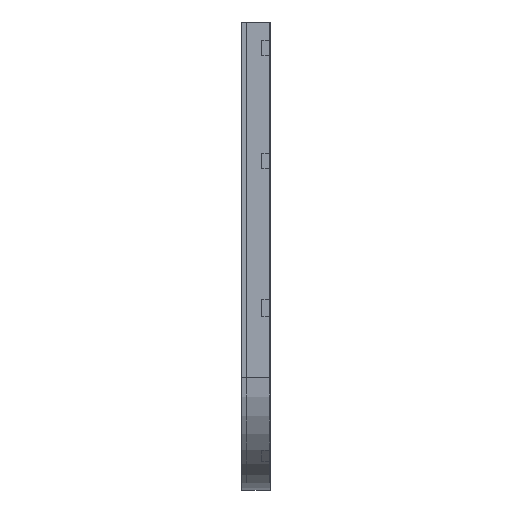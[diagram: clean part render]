
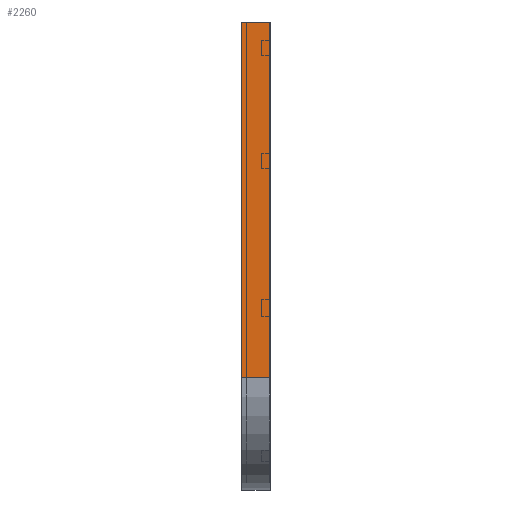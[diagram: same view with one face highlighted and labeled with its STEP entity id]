
A CAD part, left-side view. The second image highlights one B-rep face of the part: STEP entity #2260.
In plain terms, the highlighted planar face has unit normal (-1, 0, 0).
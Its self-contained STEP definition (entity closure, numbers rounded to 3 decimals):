
#28 = EDGE_CURVE ( 'NONE', #1199, #1279, #1476, .T. ) ;
#56 = CARTESIAN_POINT ( 'NONE',  ( 0., 75., 0. ) ) ;
#141 = CARTESIAN_POINT ( 'NONE',  ( 0., 75., -950. ) ) ;
#176 = EDGE_CURVE ( 'NONE', #1199, #511, #2071, .T. ) ;
#281 = CARTESIAN_POINT ( 'NONE',  ( 0., 0., 0. ) ) ;
#363 = ORIENTED_EDGE ( 'NONE', *, *, #176, .F. ) ;
#461 = ORIENTED_EDGE ( 'NONE', *, *, #984, .F. ) ;
#483 = CARTESIAN_POINT ( 'NONE',  ( 0., 0., 0. ) ) ;
#511 = VERTEX_POINT ( 'NONE', #589 ) ;
#545 = EDGE_CURVE ( 'NONE', #1279, #789, #610, .T. ) ;
#589 = CARTESIAN_POINT ( 'NONE',  ( 0., 0., 0. ) ) ;
#604 = EDGE_LOOP ( 'NONE', ( #461, #363, #968, #950 ) ) ;
#610 = LINE ( 'NONE', #1822, #1414 ) ;
#631 = DIRECTION ( 'NONE',  ( 0., -1., 0. ) ) ;
#650 = VECTOR ( 'NONE', #1183, 1000. ) ;
#766 = VECTOR ( 'NONE', #1989, 1000. ) ;
#789 = VERTEX_POINT ( 'NONE', #1933 ) ;
#850 = VECTOR ( 'NONE', #1694, 1000. ) ;
#866 = PLANE ( 'NONE',  #1403 ) ;
#879 = DIRECTION ( 'NONE',  ( 1., 0., 0. ) ) ;
#950 = ORIENTED_EDGE ( 'NONE', *, *, #545, .T. ) ;
#968 = ORIENTED_EDGE ( 'NONE', *, *, #28, .T. ) ;
#984 = EDGE_CURVE ( 'NONE', #511, #789, #1486, .T. ) ;
#999 = CARTESIAN_POINT ( 'NONE',  ( 0., 75., 0. ) ) ;
#1183 = DIRECTION ( 'NONE',  ( 0., -1., 0. ) ) ;
#1199 = VERTEX_POINT ( 'NONE', #999 ) ;
#1279 = VERTEX_POINT ( 'NONE', #141 ) ;
#1403 = AXIS2_PLACEMENT_3D ( 'NONE', #2118, #879, #1602 ) ;
#1410 = FACE_OUTER_BOUND ( 'NONE', #604, .T. ) ;
#1414 = VECTOR ( 'NONE', #631, 1000. ) ;
#1476 = LINE ( 'NONE', #56, #766 ) ;
#1486 = LINE ( 'NONE', #281, #850 ) ;
#1602 = DIRECTION ( 'NONE',  ( 0., 0., -1. ) ) ;
#1694 = DIRECTION ( 'NONE',  ( 0., 0., -1. ) ) ;
#1822 = CARTESIAN_POINT ( 'NONE',  ( 0., 0., -950. ) ) ;
#1933 = CARTESIAN_POINT ( 'NONE',  ( 0., 0., -950. ) ) ;
#1989 = DIRECTION ( 'NONE',  ( 0., 0., -1. ) ) ;
#2071 = LINE ( 'NONE', #483, #650 ) ;
#2118 = CARTESIAN_POINT ( 'NONE',  ( 0., 0., 0. ) ) ;
#2260 = ADVANCED_FACE ( 'NONE', ( #1410 ), #866, .F. ) ;
